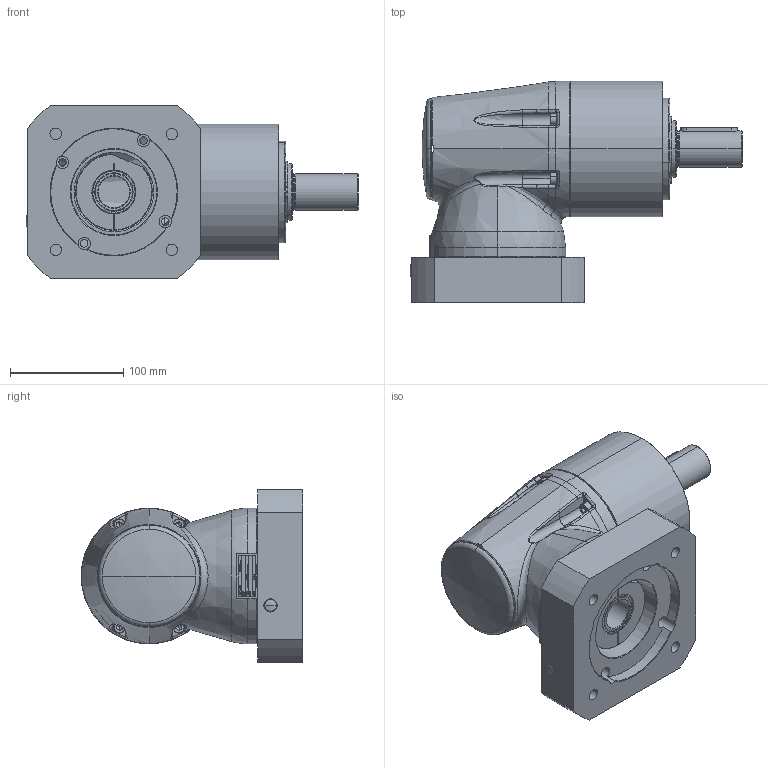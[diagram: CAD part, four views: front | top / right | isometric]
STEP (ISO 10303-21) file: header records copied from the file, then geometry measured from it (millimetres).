
FILE_DESCRIPTION (( 'STEP AP214' ), '1' );
FILE_NAME ('RL-030-0RR-FFF-MMM-S-LL-XXX-CXX-0000.STEP', '2019-10-30T15:06:43', ( '' ), ( '' ), 'SwSTEP 2.0', 'SolidWorks 2019', '' );
FILE_SCHEMA (( 'AUTOMOTIVE_DESIGN' ));
Length unit declared in the file: millimetre
Products named in the file (1): RL-030-0RR-FFF-MMM-S-LL-XXX-CXX-0000
Bounding box: 293.77 x 196 x 153 mm (x, y, z)
Surface area: 221302.9 mm2 (no closed solid volume)
Topology: 0 solids, 56 shells, 398 faces, 2054 edges, 1695 vertices
Faces by surface type: plane 117, cylinder 109, cone 68, bspline 53, torus 47, sphere 4
Entity records: 32822 total; most frequent: CARTESIAN_POINT 13773, ORIENTED_EDGE 2788, DIRECTION 2535, EDGE_CURVE 2046, VERTEX_POINT 1695, LINE 889, VECTOR 889, AXIS2_PLACEMENT_3D 823
